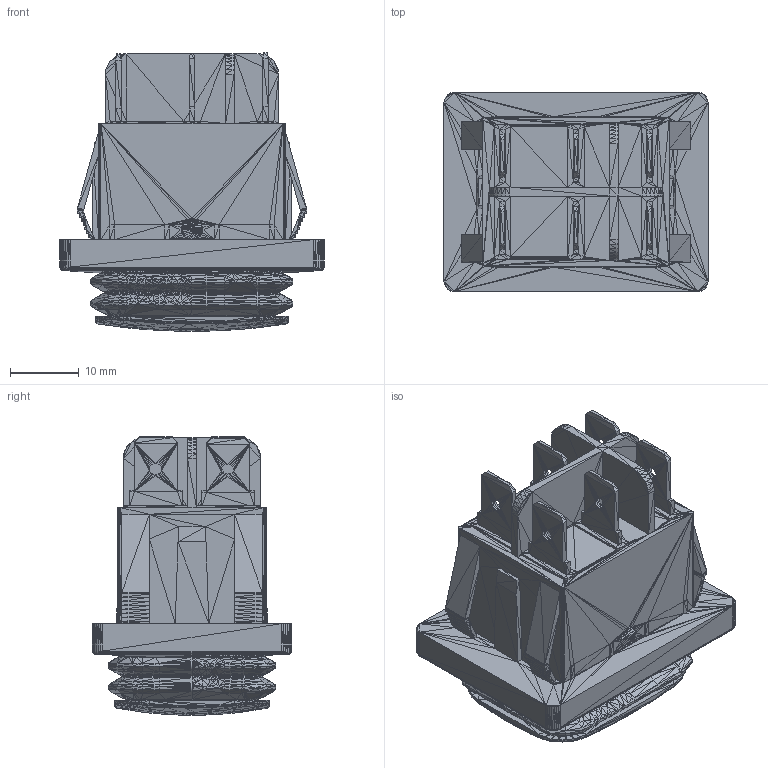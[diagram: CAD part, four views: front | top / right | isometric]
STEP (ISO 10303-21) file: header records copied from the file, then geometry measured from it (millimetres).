
FILE_DESCRIPTION(('FreeCAD Model'),'2;1');
FILE_NAME('Open CASCADE Shape Model','2025-10-28T11:38:31',('Author'),( ''),'Open CASCADE STEP processor 7.8','FreeCAD','Unknown');
FILE_SCHEMA(('AUTOMOTIVE_DESIGN { 1 0 10303 214 1 1 1 1 }'));
Products named in the file (1): Sem_nome_KCD4_01_________________________003 (Solid)
Bounding box: 38.4 x 29 x 40.55 mm (x, y, z)
Volume: 15841.4 mm3; surface area: 14057.9 mm2
Topology: 1 solids, 5 shells, 24492 faces, 36746 edges, 12230 vertices
Faces by surface type: plane 24492
Entity records: 477640 total; most frequent: DIRECTION 85732, ORIENTED_EDGE 73476, CARTESIAN_POINT 73469, EDGE_CURVE 36746, LINE 36746, VECTOR 36746, AXIS2_PLACEMENT_3D 24493, ADVANCED_FACE 24492
